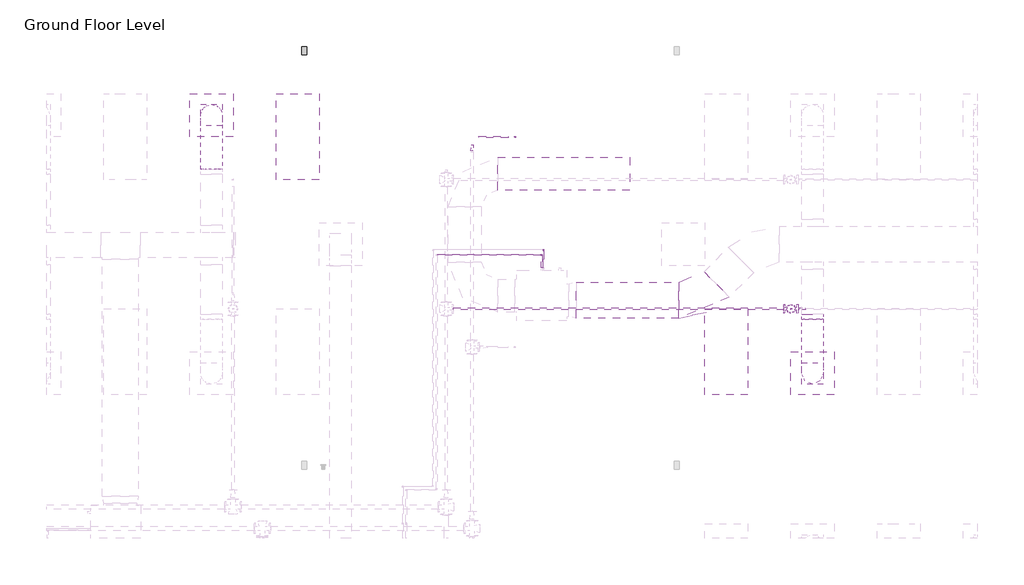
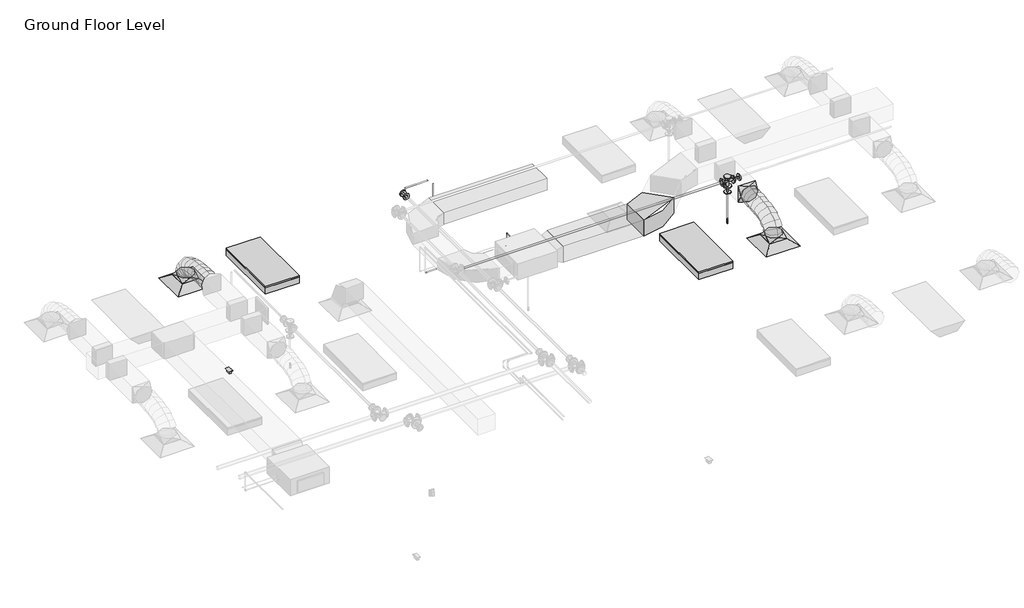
# One storey, part 72 of 74: 9 pipe segments, 8 pipe fittings, 4 duct fittings, 4 duct segments, 2 air terminals, 2 fire suppression terminals, 2 light fixtures, 1 proxy.
"""IFC4 building model written with IfcOpenShell, lengths in millimetres."""

from ifc_helpers import new_model, si_unit, point, frame, frame_2d, origin, place, context, project, spatial, polyline, circle_curve, ellipse_curve, trimmed, segment, composite_curve, outline, extrude, transform, mapped, element, save
from ifc_brep_helpers import plane_surface, cylinder_surface, advanced_brep
from components import m_return_diffuser_600_x_600_face_300_x_300_connection_ff221211, m_duplex_receptacle_standard_10251bba, m_rectangular_elbow_radius_1_5_w_acc56c25, m_rectangular_to_round_transition_angle_45_degree_641efff0, m_sprinkler_dry_pendent_hosted_15_mm_dry_pendent_9bda8e11, m_sprinkler_pendent_15_mm_pendent_06fcbd8e, m_troffer_light_parabolic_rectangular1_0600x1200mm_4_lamp_86473d4a, m_elbow_generic_standard_a088f956, m_elbow_generic_standard_2a704253, m_reducer_flanged_cs_class_150_standard_ccf252ad, m_tee_round_base_flanged_cs_class_150_standard_7e5987a1

model = new_model("IFC4")

# Units and contexts
model_context = context("Model", 3, world=origin())
ifc_project = project(units=[si_unit("LENGTHUNIT", "METRE", prefix="MILLI")], contexts=[model_context])

# Site, building, storey
site = spatial("IfcSite", under=ifc_project)
building = spatial("IfcBuilding", under=site)
storey = spatial("IfcBuildingStorey", under=building, Name="Ground Floor Level", Elevation=900.0)

# Air terminals
placement = place(None, origin())
m_return_diffuser_600_x_600_face_300_x_300_connection_shape = m_return_diffuser_600_x_600_face_300_x_300_connection_ff221211(model_context)
element("IfcAirTerminal", 1, ObjectType="M_Supply Diffuser : 600 x 600 Face 300 x 300 Connection", at=placement, inside=storey, context=model_context, shape_type="MappedRepresentation", body=[
    mapped(m_return_diffuser_600_x_600_face_300_x_300_connection_shape, transform((2362.7672395, 20535.2153534, 3650.0), x_axis=(1.0, 0.0, 0.0), y_axis=(0.0, 1.0, 0.0), z_axis=(0.0, 0.0, 1.0))),
])
element("IfcAirTerminal", 2, ObjectType="M_Supply Diffuser : 600 x 600 Face 300 x 300 Connection", at=placement, inside=storey, context=model_context, shape_type="MappedRepresentation", body=[
    mapped(m_return_diffuser_600_x_600_face_300_x_300_connection_shape, transform((10742.7672395, 16935.2153534, 3650.0), x_axis=(1.0, 0.0, 0.0), y_axis=(0.0, 1.0, 0.0), z_axis=(0.0, 0.0, 1.0))),
])

# Proxy
m_duplex_receptacle_standard_shape = m_duplex_receptacle_standard_10251bba(model_context)
element("IfcBuildingElementProxy", 3, Name="M_Duplex Receptacle : Standard", ObjectType="M_Duplex Receptacle : Standard", at=placement, inside=storey, context=model_context, shape_type="MappedRepresentation", body=[
    mapped(m_duplex_receptacle_standard_shape, transform((3652.7672395, 21435.2153534, 1000.0), x_axis=(-1.0, 0.0, 0.0), y_axis=(0.0, -1.0, 0.0), z_axis=(0.0, 0.0, 1.0))),
])

# Duct fittings
m_rectangular_elbow_radius_1_5_w_shape = m_rectangular_elbow_radius_1_5_w_acc56c25(model_context)
element("IfcDuctFitting", 4, ObjectType="M_Rectangular Elbow - Radius : 1.5 W", at=placement, inside=storey, context=model_context, shape_type="MappedRepresentation", body=[
    mapped(m_rectangular_elbow_radius_1_5_w_shape, transform((9187.6927358, 17956.1779527, 4100.0047224), x_axis=(0.9999999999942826, 0.0, -3.3815582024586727e-06), y_axis=(-9.063610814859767e-12, 0.9999999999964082, -2.680306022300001e-06), z_axis=(3.3815582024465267e-06, 2.6803060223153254e-06, 0.9999999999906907))),
])
m_rectangular_to_round_transition_angle_45_degree_shape = m_rectangular_to_round_transition_angle_45_degree_641efff0(model_context)
element("IfcDuctFitting", 5, ObjectType="M_Rectangular to Round Transition - Angle : 45 Degree", at=placement, inside=storey, context=model_context, shape_type="MappedRepresentation", body=[
    mapped(m_rectangular_to_round_transition_angle_45_degree_shape, transform((2362.7672395, 20535.2153534, 3751.6), x_axis=(0.0, 0.0, 1.0), y_axis=(-1.0, 0.0, 0.0), z_axis=(0.0, -1.0, 0.0))),
])
element("IfcDuctFitting", 6, ObjectType="M_Rectangular to Round Transition - Angle : 45 Degree", at=placement, inside=storey, context=model_context, shape_type="MappedRepresentation", body=[
    mapped(m_rectangular_to_round_transition_angle_45_degree_shape, transform((10742.7672395, 16935.2153534, 3751.6), x_axis=(0.0, 0.0, 1.0), y_axis=(-1.0, 0.0, 0.0), z_axis=(0.0, -1.0, 0.0))),
])
element("IfcDuctFitting", 7, ObjectType="M_Rectangular to Round Transition - Angle : 45 Degree", at=placement, inside=storey, context=model_context, shape_type="MappedRepresentation", body=[
    mapped(m_rectangular_to_round_transition_angle_45_degree_shape, transform((10742.7672395, 17762.5512847, 4100.0), x_axis=(0.0, -1.0, 0.0), y_axis=(1.0, 0.0, 0.0), z_axis=(0.0, 0.0, 1.0))),
])

# Duct segments
element("IfcDuctSegment", 8, ObjectType="Flex - Round", at=placement, inside=storey, context=model_context, shape_type="AdvancedBrep", body=[
    advanced_brep(
    [(2512.7672395, 20535.2153534, 3826.6), (2362.7672395, 20385.2153534, 3826.6), (2212.7672395, 20535.2153534, 3826.6), (2362.7672395, 20685.2153534, 3826.6), (2512.7672395, 20535.2153534, 3857.937778), (2362.7672395, 20385.2153534, 3832.2944744), (2212.7672395, 20535.2153534, 3857.937778), (2362.7672395, 20685.2153534, 3883.5810816), (2512.7672395, 20518.1993769, 3906.2506017), (2362.7672395, 20384.4614978, 3834.4348684), (2212.7672395, 20518.1993769, 3906.2506017), (2362.7672395, 20651.937256, 3978.0663351), (2512.7672395, 20471.0153769, 3968.7112406), (2362.7672395, 20366.8097489, 3857.8016772), (2212.7672395, 20471.0153769, 3968.7112406), (2362.7672395, 20575.2210049, 4079.6208039), (2512.7672395, 20399.4592477, 4016.0697935), (2362.7672395, 20330.5256195, 3881.8158865), (2212.7672395, 20399.4592477, 4016.0697935), (2362.7672395, 20468.3928758, 4150.3237004), (2512.7672395, 20309.3268835, 4050.4141374), (2362.7672395, 20265.7665876, 3906.4918893), (2212.7672395, 20309.3268835, 4050.4141374), (2362.7672395, 20352.8871794, 4194.3363855), (2512.7672395, 20206.4141786, 4073.8321493), (2362.7672395, 20179.8536975, 3926.0415559), (2212.7672395, 20206.4141786, 4073.8321493), (2362.7672395, 20232.9746597, 4221.6227426), (2512.7672395, 20096.5170273, 4088.411706), (2362.7672395, 20081.3665099, 3939.1074046), (2212.7672395, 20096.5170273, 4088.411706), (2362.7672395, 20111.6675446, 4237.7160075), (2512.7672395, 19985.4313238, 4096.2406846), (2362.7672395, 19977.9262951, 3946.3975526), (2212.7672395, 19985.4313238, 4096.2406846), (2362.7672395, 19992.9363525, 4246.0838166), (2512.7672395, 19878.9529624, 4099.406962), (2362.7672395, 19876.2616453, 3949.4206879), (2212.7672395, 19878.9529624, 4099.406962), (2362.7672395, 19881.6442795, 4249.3932362), (2512.7672395, 19782.8778373, 4099.9984152), (2362.7672395, 19783.8012427, 4249.9955729), (2212.7672395, 19782.8778373, 4099.9984152), (2362.7672395, 19781.9544319, 3950.0012575)],
    [
        (0, 1, circle_curve(frame((2362.7672395, 20535.2153534, 3826.6), z_axis=(0.0, 0.0, -1.0), x_axis=(1.0, 0.0, 0.0)), 150.0)),
        (1, 2, circle_curve(frame((2362.7672395, 20535.2153534, 3826.6), z_axis=(0.0, 0.0, -1.0), x_axis=(1.0, 0.0, 0.0)), 150.0)),
        (2, 3, circle_curve(frame((2362.7672395, 20535.2153534, 3826.6), z_axis=(0.0, 0.0, -1.0), x_axis=(1.0, 0.0, 0.0)), 150.0)),
        (3, 0, circle_curve(frame((2362.7672395, 20535.2153534, 3826.6), z_axis=(0.0, 0.0, -1.0), x_axis=(1.0, 0.0, 0.0)), 150.0)),
        (0, 4),
        (4, 5, ellipse_curve(frame((2362.7672395, 20535.2153534, 3857.937778), z_axis=(0.0, 0.16851066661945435, -0.985699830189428), x_axis=(0.0, -0.985699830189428, -0.16851066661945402)), 152.1761447, 150.0)),
        (5, 1),
        (5, 6, ellipse_curve(frame((2362.7672395, 20535.2153534, 3857.937778), z_axis=(0.0, 0.16851066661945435, -0.985699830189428), x_axis=(0.0, -0.985699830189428, -0.16851066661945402)), 152.1761447, 150.0)),
        (6, 2),
        (6, 7, ellipse_curve(frame((2362.7672395, 20535.2153534, 3857.937778), z_axis=(0.0, 0.16851066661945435, -0.985699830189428), x_axis=(0.0, -0.985699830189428, -0.16851066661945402)), 152.1761447, 150.0)),
        (7, 3),
        (7, 4, ellipse_curve(frame((2362.7672395, 20535.2153534, 3857.937778), z_axis=(0.0, 0.16851066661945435, -0.985699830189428), x_axis=(0.0, -0.985699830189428, -0.16851066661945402)), 152.1761447, 150.0)),
        (4, 8),
        (8, 9, ellipse_curve(frame((2362.7672395, 20518.1993769, 3906.2506017), z_axis=(0.0, 0.4730936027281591, -0.8810121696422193), x_axis=(0.0, -0.8810121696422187, -0.4730936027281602)), 151.8002631, 150.0)),
        (9, 5),
        (9, 10, ellipse_curve(frame((2362.7672395, 20518.1993769, 3906.2506017), z_axis=(0.0, 0.4730936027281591, -0.8810121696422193), x_axis=(0.0, -0.8810121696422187, -0.4730936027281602)), 151.8002631, 150.0)),
        (10, 6),
        (10, 11, ellipse_curve(frame((2362.7672395, 20518.1993769, 3906.2506017), z_axis=(0.0, 0.4730936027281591, -0.8810121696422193), x_axis=(0.0, -0.8810121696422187, -0.4730936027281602)), 151.8002631, 150.0)),
        (11, 7),
        (11, 8, ellipse_curve(frame((2362.7672395, 20518.1993769, 3906.2506017), z_axis=(0.0, 0.4730936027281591, -0.8810121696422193), x_axis=(0.0, -0.8810121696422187, -0.4730936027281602)), 151.8002631, 150.0)),
        (8, 12),
        (12, 13, ellipse_curve(frame((2362.7672395, 20471.0153769, 3968.7112406), z_axis=(0.0, 0.7287895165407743, -0.6847377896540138), x_axis=(0.0, -0.6847377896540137, -0.7287895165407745)), 152.1832584, 150.0)),
        (13, 9),
        (13, 14, ellipse_curve(frame((2362.7672395, 20471.0153769, 3968.7112406), z_axis=(0.0, 0.7287895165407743, -0.6847377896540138), x_axis=(0.0, -0.6847377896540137, -0.7287895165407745)), 152.1832584, 150.0)),
        (14, 10),
        (14, 15, ellipse_curve(frame((2362.7672395, 20471.0153769, 3968.7112406), z_axis=(0.0, 0.7287895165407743, -0.6847377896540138), x_axis=(0.0, -0.6847377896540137, -0.7287895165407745)), 152.1832584, 150.0)),
        (15, 11),
        (15, 12, ellipse_curve(frame((2362.7672395, 20471.0153769, 3968.7112406), z_axis=(0.0, 0.7287895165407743, -0.6847377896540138), x_axis=(0.0, -0.6847377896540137, -0.7287895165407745)), 152.1832584, 150.0)),
        (12, 16),
        (16, 17, ellipse_curve(frame((2362.7672395, 20399.4592477, 4016.0697935), z_axis=(0.0, 0.8895873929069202, -0.4567650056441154), x_axis=(0.0, -0.4567650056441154, -0.8895873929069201)), 150.9170521, 150.0)),
        (17, 13),
        (17, 18, ellipse_curve(frame((2362.7672395, 20399.4592477, 4016.0697935), z_axis=(0.0, 0.8895873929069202, -0.4567650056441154), x_axis=(0.0, -0.4567650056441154, -0.8895873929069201)), 150.9170521, 150.0)),
        (18, 14),
        (18, 19, ellipse_curve(frame((2362.7672395, 20399.4592477, 4016.0697935), z_axis=(0.0, 0.8895873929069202, -0.4567650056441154), x_axis=(0.0, -0.4567650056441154, -0.8895873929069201)), 150.9170521, 150.0)),
        (19, 15),
        (19, 16, ellipse_curve(frame((2362.7672395, 20399.4592477, 4016.0697935), z_axis=(0.0, 0.8895873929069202, -0.4567650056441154), x_axis=(0.0, -0.4567650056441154, -0.8895873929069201)), 150.9170521, 150.0)),
        (16, 20),
        (20, 21, ellipse_curve(frame((2362.7672395, 20309.3268835, 4050.4141374), z_axis=(0.0, 0.9571212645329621, -0.2896875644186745), x_axis=(0.0, -0.28968756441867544, -0.9571212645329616)), 150.3699202, 150.0)),
        (21, 17),
        (21, 22, ellipse_curve(frame((2362.7672395, 20309.3268835, 4050.4141374), z_axis=(0.0, 0.9571212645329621, -0.2896875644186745), x_axis=(0.0, -0.28968756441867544, -0.9571212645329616)), 150.3699202, 150.0)),
        (22, 18),
        (22, 23, ellipse_curve(frame((2362.7672395, 20309.3268835, 4050.4141374), z_axis=(0.0, 0.9571212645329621, -0.2896875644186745), x_axis=(0.0, -0.28968756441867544, -0.9571212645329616)), 150.3699202, 150.0)),
        (23, 19),
        (23, 20, ellipse_curve(frame((2362.7672395, 20309.3268835, 4050.4141374), z_axis=(0.0, 0.9571212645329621, -0.2896875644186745), x_axis=(0.0, -0.28968756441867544, -0.9571212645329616)), 150.3699202, 150.0)),
        (20, 24),
        (24, 25, ellipse_curve(frame((2362.7672395, 20206.4141786, 4073.8321493), z_axis=(0.0, 0.9842318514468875, -0.17688318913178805), x_axis=(0.0, -0.17688318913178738, -0.9842318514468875)), 150.1583119, 150.0)),
        (25, 21),
        (25, 26, ellipse_curve(frame((2362.7672395, 20206.4141786, 4073.8321493), z_axis=(0.0, 0.9842318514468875, -0.17688318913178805), x_axis=(0.0, -0.17688318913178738, -0.9842318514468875)), 150.1583119, 150.0)),
        (26, 22),
        (26, 27, ellipse_curve(frame((2362.7672395, 20206.4141786, 4073.8321493), z_axis=(0.0, 0.9842318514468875, -0.17688318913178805), x_axis=(0.0, -0.17688318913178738, -0.9842318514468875)), 150.1583119, 150.0)),
        (27, 23),
        (27, 24, ellipse_curve(frame((2362.7672395, 20206.4141786, 4073.8321493), z_axis=(0.0, 0.9842318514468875, -0.17688318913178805), x_axis=(0.0, -0.17688318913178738, -0.9842318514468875)), 150.1583119, 150.0)),
        (24, 28),
        (28, 29, ellipse_curve(frame((2362.7672395, 20096.5170273, 4088.411706), z_axis=(0.0, 0.9948909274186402, -0.10095564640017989), x_axis=(0.0, -0.10095564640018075, -0.99489092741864)), 150.0710252, 150.0)),
        (29, 25),
        (29, 30, ellipse_curve(frame((2362.7672395, 20096.5170273, 4088.411706), z_axis=(0.0, 0.9948909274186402, -0.10095564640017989), x_axis=(0.0, -0.10095564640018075, -0.99489092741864)), 150.0710252, 150.0)),
        (30, 26),
        (30, 31, ellipse_curve(frame((2362.7672395, 20096.5170273, 4088.411706), z_axis=(0.0, 0.9948909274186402, -0.10095564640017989), x_axis=(0.0, -0.10095564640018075, -0.99489092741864)), 150.0710252, 150.0)),
        (31, 27),
        (31, 28, ellipse_curve(frame((2362.7672395, 20096.5170273, 4088.411706), z_axis=(0.0, 0.9948909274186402, -0.10095564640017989), x_axis=(0.0, -0.10095564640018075, -0.99489092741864)), 150.0710252, 150.0)),
        (28, 32),
        (32, 33, ellipse_curve(frame((2362.7672395, 19985.4313238, 4096.2406846), z_axis=(0.0, 0.9987480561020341, -0.05002319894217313), x_axis=(0.0, -0.050023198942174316, -0.9987480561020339)), 150.0309623, 150.0)),
        (33, 29),
        (33, 34, ellipse_curve(frame((2362.7672395, 19985.4313238, 4096.2406846), z_axis=(0.0, 0.9987480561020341, -0.05002319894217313), x_axis=(0.0, -0.050023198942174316, -0.9987480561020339)), 150.0309623, 150.0)),
        (34, 30),
        (34, 35, ellipse_curve(frame((2362.7672395, 19985.4313238, 4096.2406846), z_axis=(0.0, 0.9987480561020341, -0.05002319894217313), x_axis=(0.0, -0.050023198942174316, -0.9987480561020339)), 150.0309623, 150.0)),
        (35, 31),
        (35, 32, ellipse_curve(frame((2362.7672395, 19985.4313238, 4096.2406846), z_axis=(0.0, 0.9987480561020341, -0.05002319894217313), x_axis=(0.0, -0.050023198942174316, -0.9987480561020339)), 150.0309623, 150.0)),
        (32, 36),
        (36, 37, ellipse_curve(frame((2362.7672395, 19878.9529624, 4099.406962), z_axis=(0.0, 0.99983904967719, -0.017940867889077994), x_axis=(0.0, -0.017940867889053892, -0.9998390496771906)), 150.0104184, 150.0)),
        (37, 33),
        (37, 38, ellipse_curve(frame((2362.7672395, 19878.9529624, 4099.406962), z_axis=(0.0, 0.99983904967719, -0.017940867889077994), x_axis=(0.0, -0.017940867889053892, -0.9998390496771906)), 150.0104184, 150.0)),
        (38, 34),
        (38, 39, ellipse_curve(frame((2362.7672395, 19878.9529624, 4099.406962), z_axis=(0.0, 0.99983904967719, -0.017940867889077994), x_axis=(0.0, -0.017940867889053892, -0.9998390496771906)), 150.0104184, 150.0)),
        (39, 35),
        (39, 36, ellipse_curve(frame((2362.7672395, 19878.9529624, 4099.406962), z_axis=(0.0, 0.99983904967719, -0.017940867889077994), x_axis=(0.0, -0.017940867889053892, -0.9998390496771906)), 150.0104184, 150.0)),
        (40, 41, circle_curve(frame((2362.7672395, 19782.8778373, 4099.9984152), z_axis=(0.0, -0.9999810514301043, 0.006156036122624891), x_axis=(1.0, 0.0, 0.0)), 150.0)),
        (41, 42, circle_curve(frame((2362.7672395, 19782.8778373, 4099.9984152), z_axis=(0.0, -0.9999810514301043, 0.006156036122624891), x_axis=(1.0, 0.0, 0.0)), 150.0)),
        (42, 43, circle_curve(frame((2362.7672395, 19782.8778373, 4099.9984152), z_axis=(0.0, -0.9999810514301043, 0.006156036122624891), x_axis=(1.0, 0.0, 0.0)), 150.0)),
        (43, 40, circle_curve(frame((2362.7672395, 19782.8778373, 4099.9984152), z_axis=(0.0, -0.9999810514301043, 0.006156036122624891), x_axis=(1.0, 0.0, 0.0)), 150.0)),
        (36, 40),
        (43, 37),
        (42, 38),
        (41, 39),
    ],
    [
        plane_surface(frame((2362.7672395, 20385.2153534, 3826.6), z_axis=(0.0, 0.0, -1.0), x_axis=(1.0, 0.0, 0.0))),
        cylinder_surface(frame((2362.7672395, 20535.2153534, 3826.6), z_axis=(0.0, 0.0, -1.0), x_axis=(1.0, 0.0, 0.0)), 150.0),
        cylinder_surface(frame((2362.7672395, 20535.2153534, 3857.937778), z_axis=(0.0, 0.3322018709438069, -0.9432083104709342), x_axis=(1.0, 0.0, 0.0)), 150.0),
        cylinder_surface(frame((2362.7672395, 20518.1993769, 3906.2506017), z_axis=(0.0, 0.6027641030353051, -0.7979194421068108), x_axis=(1.0, 0.0, 0.0)), 150.0),
        cylinder_surface(frame((2362.7672395, 20471.0153769, 3968.7112406), z_axis=(0.0, 0.8339041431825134, -0.5519093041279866), x_axis=(1.0, 0.0, 0.0)), 150.0),
        cylinder_surface(frame((2362.7672395, 20399.4592477, 4016.0697935), z_axis=(0.0, 0.9344594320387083, -0.3560696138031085), x_axis=(1.0, 0.0, 0.0)), 150.0),
        cylinder_surface(frame((2362.7672395, 20309.3268835, 4050.4141374), z_axis=(0.0, 0.9750739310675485, -0.22188021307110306), x_axis=(1.0, 0.0, 0.0)), 150.0),
        cylinder_surface(frame((2362.7672395, 20206.4141786, 4073.8321493), z_axis=(0.0, 0.9913144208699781, -0.13151318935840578), x_axis=(1.0, 0.0, 0.0)), 150.0),
        cylinder_surface(frame((2362.7672395, 20096.5170273, 4088.411706), z_axis=(0.0, 0.9975257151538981, -0.07030254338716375), x_axis=(1.0, 0.0, 0.0)), 150.0),
        cylinder_surface(frame((2362.7672395, 19985.4313238, 4096.2406846), z_axis=(0.0, 0.9995581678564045, -0.029723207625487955), x_axis=(1.0, 0.0, 0.0)), 150.0),
        plane_surface(frame((2362.7672395, 19781.9544319, 3950.0012575), z_axis=(0.0, -0.9999810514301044, 0.006156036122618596), x_axis=(1.0, 0.0, 0.0))),
        cylinder_surface(frame((2362.7672395, 19878.9529624, 4099.406962), z_axis=(0.0, 0.9999810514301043, -0.006156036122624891), x_axis=(1.0, 0.0, 0.0)), 150.0),
    ],
    [
        (0, [[1, 2, 3, 4]]),
        (1, [[-1, 5, 6, 7]]),
        (1, [[-2, -7, 8, 9]]),
        (1, [[-3, -9, 10, 11]]),
        (1, [[-4, -11, 12, -5]]),
        (2, [[-6, 13, 14, 15]]),
        (2, [[-8, -15, 16, 17]]),
        (2, [[-10, -17, 18, 19]]),
        (2, [[-12, -19, 20, -13]]),
        (3, [[-14, 21, 22, 23]]),
        (3, [[-16, -23, 24, 25]]),
        (3, [[-18, -25, 26, 27]]),
        (3, [[-20, -27, 28, -21]]),
        (4, [[-22, 29, 30, 31]]),
        (4, [[-24, -31, 32, 33]]),
        (4, [[-26, -33, 34, 35]]),
        (4, [[-28, -35, 36, -29]]),
        (5, [[-30, 37, 38, 39]]),
        (5, [[-32, -39, 40, 41]]),
        (5, [[-34, -41, 42, 43]]),
        (5, [[-36, -43, 44, -37]]),
        (6, [[-38, 45, 46, 47]]),
        (6, [[-40, -47, 48, 49]]),
        (6, [[-42, -49, 50, 51]]),
        (6, [[-44, -51, 52, -45]]),
        (7, [[-46, 53, 54, 55]]),
        (7, [[-48, -55, 56, 57]]),
        (7, [[-50, -57, 58, 59]]),
        (7, [[-52, -59, 60, -53]]),
        (8, [[-54, 61, 62, 63]]),
        (8, [[-56, -63, 64, 65]]),
        (8, [[-58, -65, 66, 67]]),
        (8, [[-60, -67, 68, -61]]),
        (9, [[-62, 69, 70, 71]]),
        (9, [[-64, -71, 72, 73]]),
        (9, [[-66, -73, 74, 75]]),
        (9, [[-68, -75, 76, -69]]),
        (10, [[77, 78, 79, 80]]),
        (11, [[-70, 81, -80, 82]]),
        (11, [[-72, -82, -79, 83]]),
        (11, [[-74, -83, -78, 84]]),
        (11, [[-76, -84, -77, -81]]),
    ],
),
])
element("IfcDuctSegment", 9, ObjectType="Flex - Round", at=placement, inside=storey, context=model_context, shape_type="AdvancedBrep", body=[
    advanced_brep(
    [(10892.7672395, 16935.2153534, 3826.6), (10742.7672395, 16785.2153534, 3826.6), (10592.7672395, 16935.2153534, 3826.6), (10742.7672395, 17085.2153534, 3826.6), (10892.7672395, 16935.2153534, 3857.9377114), (10742.7672395, 16785.2153534, 3883.5809337), (10592.7672395, 16935.2153534, 3857.9377114), (10742.7672395, 17085.2153534, 3832.2944892), (10892.7672395, 16952.2312859, 3906.2505728), (10742.7672395, 16818.493307, 3978.0660967), (10592.7672395, 16952.2312859, 3906.2505728), (10742.7672395, 17085.9692649, 3834.435049), (10892.7672395, 16999.4151663, 3968.7113131), (10742.7672395, 16895.209267, 4079.6206026), (10592.7672395, 16999.4151663, 3968.7113131), (10742.7672395, 17103.6210655, 3857.8020236), (10892.7672395, 17070.9711184, 4016.0700639), (10742.7672395, 17002.0370628, 4150.3237489), (10592.7672395, 17070.9711184, 4016.0700639), (10742.7672395, 17139.9051741, 3881.8163788), (10892.7672395, 17161.1032664, 4050.4146682), (10742.7672395, 17117.5425033, 4194.3367758), (10592.7672395, 17161.1032664, 4050.4146682), (10742.7672395, 17204.6640296, 3906.4925606), (10892.7672395, 17264.0157343, 4073.8329691), (10742.7672395, 17237.4548103, 4221.6234841), (10592.7672395, 17264.0157343, 4073.8329691), (10742.7672395, 17290.5766583, 3926.0424542), (10892.7672395, 17373.912646, 4088.4128097), (10742.7672395, 17358.7617437, 4237.7170733), (10592.7672395, 17373.912646, 4088.4128097), (10742.7672395, 17389.0635483, 3939.1085462), (10892.7672395, 17484.9981256, 4096.242033), (10742.7672395, 17477.4927975, 4246.085151), (10592.7672395, 17484.9981256, 4096.242033), (10742.7672395, 17492.5034538, 3946.398915), (10892.7672395, 17591.4762972, 4099.4084821), (10742.7672395, 17588.7848041, 4249.394754), (10592.7672395, 17591.4762972, 4099.4084821), (10742.7672395, 17594.1677903, 3949.4222102), (10892.7672395, 17687.5512847, 4100.0), (10742.7672395, 17688.4747925, 3950.0028429), (10592.7672395, 17687.5512847, 4100.0), (10742.7672395, 17686.6277768, 4249.9971571)],
    [
        (0, 1, circle_curve(frame((10742.7672395, 16935.2153534, 3826.6), z_axis=(0.0, 0.0, -1.0), x_axis=(1.0, 0.0, 0.0)), 150.0)),
        (1, 2, circle_curve(frame((10742.7672395, 16935.2153534, 3826.6), z_axis=(0.0, 0.0, -1.0), x_axis=(1.0, 0.0, 0.0)), 150.0)),
        (2, 3, circle_curve(frame((10742.7672395, 16935.2153534, 3826.6), z_axis=(0.0, 0.0, -1.0), x_axis=(1.0, 0.0, 0.0)), 150.0)),
        (3, 0, circle_curve(frame((10742.7672395, 16935.2153534, 3826.6), z_axis=(0.0, 0.0, -1.0), x_axis=(1.0, 0.0, 0.0)), 150.0)),
        (0, 4),
        (4, 5, ellipse_curve(frame((10742.7672395, 16935.2153534, 3857.9377114), z_axis=(0.0, -0.16851014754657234, -0.9856999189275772), x_axis=(0.0, 0.9856999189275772, -0.1685101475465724)), 152.176131, 150.0)),
        (5, 1),
        (5, 6, ellipse_curve(frame((10742.7672395, 16935.2153534, 3857.9377114), z_axis=(0.0, -0.16851014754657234, -0.9856999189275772), x_axis=(0.0, 0.9856999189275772, -0.1685101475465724)), 152.176131, 150.0)),
        (6, 2),
        (6, 7, ellipse_curve(frame((10742.7672395, 16935.2153534, 3857.9377114), z_axis=(0.0, -0.16851014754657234, -0.9856999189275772), x_axis=(0.0, 0.9856999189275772, -0.1685101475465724)), 152.176131, 150.0)),
        (7, 3),
        (7, 4, ellipse_curve(frame((10742.7672395, 16935.2153534, 3857.9377114), z_axis=(0.0, -0.16851014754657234, -0.9856999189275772), x_axis=(0.0, 0.9856999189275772, -0.1685101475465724)), 152.176131, 150.0)),
        (4, 8),
        (8, 9, ellipse_curve(frame((10742.7672395, 16952.2312859, 3906.2505728), z_axis=(0.0, -0.47309225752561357, -0.8810128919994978), x_axis=(0.0, 0.8810128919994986, -0.47309225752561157)), 151.8002519, 150.0)),
        (9, 5),
        (9, 10, ellipse_curve(frame((10742.7672395, 16952.2312859, 3906.2505728), z_axis=(0.0, -0.47309225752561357, -0.8810128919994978), x_axis=(0.0, 0.8810128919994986, -0.47309225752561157)), 151.8002519, 150.0)),
        (10, 6),
        (10, 11, ellipse_curve(frame((10742.7672395, 16952.2312859, 3906.2505728), z_axis=(0.0, -0.47309225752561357, -0.8810128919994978), x_axis=(0.0, 0.8810128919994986, -0.47309225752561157)), 151.8002519, 150.0)),
        (11, 7),
        (11, 8, ellipse_curve(frame((10742.7672395, 16952.2312859, 3906.2505728), z_axis=(0.0, -0.47309225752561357, -0.8810128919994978), x_axis=(0.0, 0.8810128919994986, -0.47309225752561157)), 151.8002519, 150.0)),
        (8, 12),
        (12, 13, ellipse_curve(frame((10742.7672395, 16999.4151663, 3968.7113131), z_axis=(0.0, -0.7287877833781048, -0.6847396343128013), x_axis=(0.0, 0.6847396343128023, -0.7287877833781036)), 152.1832446, 150.0)),
        (13, 9),
        (13, 14, ellipse_curve(frame((10742.7672395, 16999.4151663, 3968.7113131), z_axis=(0.0, -0.7287877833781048, -0.6847396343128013), x_axis=(0.0, 0.6847396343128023, -0.7287877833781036)), 152.1832446, 150.0)),
        (14, 10),
        (14, 15, ellipse_curve(frame((10742.7672395, 16999.4151663, 3968.7113131), z_axis=(0.0, -0.7287877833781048, -0.6847396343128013), x_axis=(0.0, 0.6847396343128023, -0.7287877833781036)), 152.1832446, 150.0)),
        (15, 11),
        (15, 12, ellipse_curve(frame((10742.7672395, 16999.4151663, 3968.7113131), z_axis=(0.0, -0.7287877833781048, -0.6847396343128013), x_axis=(0.0, 0.6847396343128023, -0.7287877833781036)), 152.1832446, 150.0)),
        (12, 16),
        (16, 17, ellipse_curve(frame((10742.7672395, 17070.9711184, 4016.0700639), z_axis=(0.0, -0.8895859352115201, -0.45676784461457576), x_axis=(0.0, 0.45676784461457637, -0.8895859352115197)), 150.91705, 150.0)),
        (17, 13),
        (17, 18, ellipse_curve(frame((10742.7672395, 17070.9711184, 4016.0700639), z_axis=(0.0, -0.8895859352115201, -0.45676784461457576), x_axis=(0.0, 0.45676784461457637, -0.8895859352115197)), 150.91705, 150.0)),
        (18, 14),
        (18, 19, ellipse_curve(frame((10742.7672395, 17070.9711184, 4016.0700639), z_axis=(0.0, -0.8895859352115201, -0.45676784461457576), x_axis=(0.0, 0.45676784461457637, -0.8895859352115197)), 150.91705, 150.0)),
        (19, 15),
        (19, 16, ellipse_curve(frame((10742.7672395, 17070.9711184, 4016.0700639), z_axis=(0.0, -0.8895859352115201, -0.45676784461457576), x_axis=(0.0, 0.45676784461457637, -0.8895859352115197)), 150.91705, 150.0)),
        (16, 20),
        (20, 21, ellipse_curve(frame((10742.7672395, 17161.1032664, 4050.4146682), z_axis=(0.0, -0.9571203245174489, -0.2896906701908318), x_axis=(0.0, 0.28969067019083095, -0.9571203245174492)), 150.369921, 150.0)),
        (21, 17),
        (21, 22, ellipse_curve(frame((10742.7672395, 17161.1032664, 4050.4146682), z_axis=(0.0, -0.9571203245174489, -0.2896906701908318), x_axis=(0.0, 0.28969067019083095, -0.9571203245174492)), 150.369921, 150.0)),
        (22, 18),
        (22, 23, ellipse_curve(frame((10742.7672395, 17161.1032664, 4050.4146682), z_axis=(0.0, -0.9571203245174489, -0.2896906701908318), x_axis=(0.0, 0.28969067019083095, -0.9571203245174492)), 150.369921, 150.0)),
        (23, 19),
        (23, 20, ellipse_curve(frame((10742.7672395, 17161.1032664, 4050.4146682), z_axis=(0.0, -0.9571203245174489, -0.2896906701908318), x_axis=(0.0, 0.28969067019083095, -0.9571203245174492)), 150.369921, 150.0)),
        (20, 24),
        (24, 25, ellipse_curve(frame((10742.7672395, 17264.0157343, 4073.8329691), z_axis=(0.0, -0.9842313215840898, -0.17688613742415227), x_axis=(0.0, 0.17688613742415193, -0.9842313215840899)), 150.1583131, 150.0)),
        (25, 21),
        (25, 26, ellipse_curve(frame((10742.7672395, 17264.0157343, 4073.8329691), z_axis=(0.0, -0.9842313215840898, -0.17688613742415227), x_axis=(0.0, 0.17688613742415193, -0.9842313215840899)), 150.1583131, 150.0)),
        (26, 22),
        (26, 27, ellipse_curve(frame((10742.7672395, 17264.0157343, 4073.8329691), z_axis=(0.0, -0.9842313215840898, -0.17688613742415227), x_axis=(0.0, 0.17688613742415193, -0.9842313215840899)), 150.1583131, 150.0)),
        (27, 23),
        (27, 24, ellipse_curve(frame((10742.7672395, 17264.0157343, 4073.8329691), z_axis=(0.0, -0.9842313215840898, -0.17688613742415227), x_axis=(0.0, 0.17688613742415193, -0.9842313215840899)), 150.1583131, 150.0)),
        (24, 28),
        (28, 29, ellipse_curve(frame((10742.7672395, 17373.912646, 4088.4128097), z_axis=(0.0, -0.9948906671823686, -0.1009582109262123), x_axis=(0.0, 0.10095821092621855, -0.994890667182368)), 150.0710264, 150.0)),
        (29, 25),
        (29, 30, ellipse_curve(frame((10742.7672395, 17373.912646, 4088.4128097), z_axis=(0.0, -0.9948906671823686, -0.1009582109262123), x_axis=(0.0, 0.10095821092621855, -0.994890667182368)), 150.0710264, 150.0)),
        (30, 26),
        (30, 31, ellipse_curve(frame((10742.7672395, 17373.912646, 4088.4128097), z_axis=(0.0, -0.9948906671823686, -0.1009582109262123), x_axis=(0.0, 0.10095821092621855, -0.994890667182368)), 150.0710264, 150.0)),
        (31, 27),
        (31, 28, ellipse_curve(frame((10742.7672395, 17373.912646, 4088.4128097), z_axis=(0.0, -0.9948906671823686, -0.1009582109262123), x_axis=(0.0, 0.10095821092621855, -0.994890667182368)), 150.0710264, 150.0)),
        (28, 32),
        (32, 33, ellipse_curve(frame((10742.7672395, 17484.9981256, 4096.242033), z_axis=(0.0, -0.9987479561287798, -0.05002519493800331), x_axis=(0.0, 0.05002519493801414, -0.9987479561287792)), 150.0309634, 150.0)),
        (33, 29),
        (33, 34, ellipse_curve(frame((10742.7672395, 17484.9981256, 4096.242033), z_axis=(0.0, -0.9987479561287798, -0.05002519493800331), x_axis=(0.0, 0.05002519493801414, -0.9987479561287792)), 150.0309634, 150.0)),
        (34, 30),
        (34, 35, ellipse_curve(frame((10742.7672395, 17484.9981256, 4096.242033), z_axis=(0.0, -0.9987479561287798, -0.05002519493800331), x_axis=(0.0, 0.05002519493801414, -0.9987479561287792)), 150.0309634, 150.0)),
        (35, 31),
        (35, 32, ellipse_curve(frame((10742.7672395, 17484.9981256, 4096.242033), z_axis=(0.0, -0.9987479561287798, -0.05002519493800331), x_axis=(0.0, 0.05002519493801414, -0.9987479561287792)), 150.0309634, 150.0)),
        (32, 36),
        (36, 37, ellipse_curve(frame((10742.7672395, 17591.4762972, 4099.4084821), z_axis=(0.0, -0.9998390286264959, -0.017942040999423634), x_axis=(0.0, 0.017942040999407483, -0.9998390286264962)), 150.0104193, 150.0)),
        (37, 33),
        (37, 38, ellipse_curve(frame((10742.7672395, 17591.4762972, 4099.4084821), z_axis=(0.0, -0.9998390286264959, -0.017942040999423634), x_axis=(0.0, 0.017942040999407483, -0.9998390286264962)), 150.0104193, 150.0)),
        (38, 34),
        (38, 39, ellipse_curve(frame((10742.7672395, 17591.4762972, 4099.4084821), z_axis=(0.0, -0.9998390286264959, -0.017942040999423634), x_axis=(0.0, 0.017942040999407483, -0.9998390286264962)), 150.0104193, 150.0)),
        (39, 35),
        (39, 36, ellipse_curve(frame((10742.7672395, 17591.4762972, 4099.4084821), z_axis=(0.0, -0.9998390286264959, -0.017942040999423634), x_axis=(0.0, 0.017942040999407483, -0.9998390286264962)), 150.0104193, 150.0)),
        (40, 41, circle_curve(frame((10742.7672395, 17687.5512847, 4100.0), z_axis=(0.0, 0.9999810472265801, 0.006156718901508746), x_axis=(1.0, 0.0, 0.0)), 150.0)),
        (41, 42, circle_curve(frame((10742.7672395, 17687.5512847, 4100.0), z_axis=(0.0, 0.9999810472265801, 0.006156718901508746), x_axis=(1.0, 0.0, 0.0)), 150.0)),
        (42, 43, circle_curve(frame((10742.7672395, 17687.5512847, 4100.0), z_axis=(0.0, 0.9999810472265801, 0.006156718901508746), x_axis=(1.0, 0.0, 0.0)), 150.0)),
        (43, 40, circle_curve(frame((10742.7672395, 17687.5512847, 4100.0), z_axis=(0.0, 0.9999810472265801, 0.006156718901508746), x_axis=(1.0, 0.0, 0.0)), 150.0)),
        (36, 40),
        (43, 37),
        (42, 38),
        (41, 39),
    ],
    [
        plane_surface(frame((10742.7672395, 16785.2153534, 3826.6), z_axis=(0.0, 0.0, -1.0), x_axis=(1.0, 0.0, 0.0))),
        cylinder_surface(frame((10742.7672395, 16935.2153534, 3826.6), z_axis=(0.0, 0.0, -1.0), x_axis=(1.0, 0.0, 0.0)), 150.0),
        cylinder_surface(frame((10742.7672395, 16935.2153534, 3857.9377114), z_axis=(0.0, -0.3322008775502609, -0.9432086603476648), x_axis=(1.0, 0.0, 0.0)), 150.0),
        cylinder_surface(frame((10742.7672395, 16952.2312859, 3906.2505728), z_axis=(0.0, -0.6027625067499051, -0.7979206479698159), x_axis=(1.0, 0.0, 0.0)), 150.0),
        cylinder_surface(frame((10742.7672395, 16999.4151663, 3968.7113131), z_axis=(0.0, -0.833902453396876, -0.5519118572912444), x_axis=(1.0, 0.0, 0.0)), 150.0),
        cylinder_surface(frame((10742.7672395, 17070.9711184, 4016.0700639), z_axis=(0.0, -0.9344582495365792, -0.35607271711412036), x_axis=(1.0, 0.0, 0.0)), 150.0),
        cylinder_surface(frame((10742.7672395, 17161.1032664, 4050.4146682), z_axis=(0.0, -0.9750732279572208, -0.22188330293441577), x_axis=(1.0, 0.0, 0.0)), 150.0),
        cylinder_surface(frame((10742.7672395, 17264.0157343, 4073.8329691), z_axis=(0.0, -0.9913140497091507, -0.13151598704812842), x_axis=(1.0, 0.0, 0.0)), 150.0),
        cylinder_surface(frame((10742.7672395, 17373.912646, 4088.4128097), z_axis=(0.0, -0.9975255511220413, -0.07030487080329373), x_axis=(1.0, 0.0, 0.0)), 150.0),
        cylinder_surface(frame((10742.7672395, 17484.9981256, 4096.242033), z_axis=(0.0, -0.9995581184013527, -0.02972487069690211), x_axis=(1.0, 0.0, 0.0)), 150.0),
        plane_surface(frame((10742.7672395, 17686.6277768, 4249.9971571), z_axis=(0.0, 0.9999810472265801, 0.0061567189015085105), x_axis=(1.0, 0.0, 0.0))),
        cylinder_surface(frame((10742.7672395, 17591.4762972, 4099.4084821), z_axis=(0.0, -0.9999810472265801, -0.006156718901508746), x_axis=(1.0, 0.0, 0.0)), 150.0),
    ],
    [
        (0, [[1, 2, 3, 4]]),
        (1, [[-1, 5, 6, 7]]),
        (1, [[-2, -7, 8, 9]]),
        (1, [[-3, -9, 10, 11]]),
        (1, [[-4, -11, 12, -5]]),
        (2, [[-6, 13, 14, 15]]),
        (2, [[-8, -15, 16, 17]]),
        (2, [[-10, -17, 18, 19]]),
        (2, [[-12, -19, 20, -13]]),
        (3, [[-14, 21, 22, 23]]),
        (3, [[-16, -23, 24, 25]]),
        (3, [[-18, -25, 26, 27]]),
        (3, [[-20, -27, 28, -21]]),
        (4, [[-22, 29, 30, 31]]),
        (4, [[-24, -31, 32, 33]]),
        (4, [[-26, -33, 34, 35]]),
        (4, [[-28, -35, 36, -29]]),
        (5, [[-30, 37, 38, 39]]),
        (5, [[-32, -39, 40, 41]]),
        (5, [[-34, -41, 42, 43]]),
        (5, [[-36, -43, 44, -37]]),
        (6, [[-38, 45, 46, 47]]),
        (6, [[-40, -47, 48, 49]]),
        (6, [[-42, -49, 50, 51]]),
        (6, [[-44, -51, 52, -45]]),
        (7, [[-46, 53, 54, 55]]),
        (7, [[-48, -55, 56, 57]]),
        (7, [[-50, -57, 58, 59]]),
        (7, [[-52, -59, 60, -53]]),
        (8, [[-54, 61, 62, 63]]),
        (8, [[-56, -63, 64, 65]]),
        (8, [[-58, -65, 66, 67]]),
        (8, [[-60, -67, 68, -61]]),
        (9, [[-62, 69, 70, 71]]),
        (9, [[-64, -71, 72, 73]]),
        (9, [[-66, -73, 74, 75]]),
        (9, [[-68, -75, 76, -69]]),
        (10, [[77, 78, 79, 80]]),
        (11, [[-70, 81, -80, 82]]),
        (11, [[-72, -82, -79, 83]]),
        (11, [[-74, -83, -78, 84]]),
        (11, [[-76, -84, -77, -81]]),
    ],
),
])
element("IfcDuctSegment", 10, ObjectType="Radius Elbows / Taps", at=placement, inside=storey, context=model_context, shape_type="SweptSolid", body=[
    extrude(outline(polyline([(7447.693178, 17706.1779527), (7447.693178, 18206.1779527), (8877.032564, 18206.1779527), (8877.032564, 17706.1779527), (7447.693178, 17706.1779527)])), frame((0.0, 0.0, 3950.0057729), z_axis=(0.0, 0.0, 1.0), x_axis=(1.0, 0.0, 0.0)), (0.0, 0.0, 1.0), 300.0),
])
element("IfcDuctSegment", 11, ObjectType="Radius Elbows / Taps", at=placement, inside=storey, context=model_context, shape_type="SweptSolid", body=[
    extrude(outline(polyline([(6355.2889492, 19488.7408949), (6355.2889492, 19950.6158949), (8193.4139492, 19950.6158949), (8193.4139492, 19488.7408949), (6355.2889492, 19488.7408949)])), frame((0.0, 0.0, 3968.1432729), z_axis=(0.0, 0.0, 1.0), x_axis=(1.0, 0.0, 0.0)), (0.0, 0.0, 1.0), 214.3),
])

# Fire suppression terminals
m_sprinkler_dry_pendent_hosted_15_mm_dry_pendent_shape = m_sprinkler_dry_pendent_hosted_15_mm_dry_pendent_9bda8e11(model_context)
element("IfcFireSuppressionTerminal", 12, ObjectType="M_Sprinkler - Dry - Pendent - Hosted : 15 mm Dry Pendent", at=placement, inside=storey, context=model_context, shape_type="MappedRepresentation", body=[
    mapped(m_sprinkler_dry_pendent_hosted_15_mm_dry_pendent_shape, transform((10442.7672395, 17835.2153534, 3650.0), x_axis=(1.0, 0.0, 0.0), y_axis=(0.0, -1.0, 0.0), z_axis=(0.0, 0.0, -1.0))),
])
m_sprinkler_pendent_15_mm_pendent_shape = m_sprinkler_pendent_15_mm_pendent_06fcbd8e(model_context)
element("IfcFireSuppressionTerminal", 13, ObjectType="M_Sprinkler - Pendent : 15 mm Pendent", at=placement, inside=storey, context=model_context, shape_type="MappedRepresentation", body=[
    mapped(m_sprinkler_pendent_15_mm_pendent_shape, transform((6592.5481019, 20231.639515, 3650.0), x_axis=(1.0, 0.0, 0.0), y_axis=(0.0, 1.0, 0.0), z_axis=(0.0, 0.0, 1.0))),
])

# Light fixtures
m_troffer_light_parabolic_rectangular1_0600x1200mm_4_lamp_shape = m_troffer_light_parabolic_rectangular1_0600x1200mm_4_lamp_86473d4a(model_context)
element("IfcLightFixture", 14, ObjectType="M_Troffer Light - Parabolic Rectangular1 : 0600x1200mm(4 Lamp) - 277V 2", at=placement, inside=storey, context=model_context, shape_type="MappedRepresentation", body=[
    mapped(m_troffer_light_parabolic_rectangular1_0600x1200mm_4_lamp_shape, transform((3503.3013074, 20253.918855, 3650.0), x_axis=(0.0, 1.0, 0.0), y_axis=(-1.0, 0.0, 0.0), z_axis=(0.0, 0.0, 1.0))),
])
element("IfcLightFixture", 15, ObjectType="M_Troffer Light - Parabolic Rectangular1 : 0600x1200mm(4 Lamp) - 277V 2", at=placement, inside=storey, context=model_context, shape_type="MappedRepresentation", body=[
    mapped(m_troffer_light_parabolic_rectangular1_0600x1200mm_4_lamp_shape, transform((9483.3013074, 17253.918855, 3650.0), x_axis=(0.0, 1.0, 0.0), y_axis=(-1.0, 0.0, 0.0), z_axis=(0.0, 0.0, 1.0))),
])

# Pipe fittings
m_elbow_generic_standard_shape = m_elbow_generic_standard_a088f956(model_context)
element("IfcPipeFitting", 16, ObjectType="M_Elbow - Generic : Standard", at=placement, inside=storey, context=model_context, shape_type="MappedRepresentation", body=[
    mapped(m_elbow_generic_standard_shape, transform((6968.8139492, 18590.9278534, 4034.0932729), x_axis=(0.0, 1.0, 0.0), y_axis=(0.0, 0.0, -1.0), z_axis=(-1.0, 0.0, 0.0))),
])
element("IfcPipeFitting", 17, ObjectType="M_Elbow - Generic : Standard", at=placement, inside=storey, context=model_context, shape_type="MappedRepresentation", body=[
    mapped(m_elbow_generic_standard_shape, transform((6968.8139492, 18590.9278534, 3900.0), x_axis=(0.0, 0.0, -1.0), y_axis=(-1.0, 0.0, 0.0), z_axis=(0.0, 1.0, 0.0))),
])
m_elbow_generic_standard_2_shape = m_elbow_generic_standard_2a704253(model_context)
element("IfcPipeFitting", 18, ObjectType="M_Elbow - Generic : Standard", at=placement, inside=storey, context=model_context, shape_type="MappedRepresentation", body=[
    mapped(m_elbow_generic_standard_2_shape, transform((6993.8139492, 18659.0778534, 4084.8932729), x_axis=(0.0, 1.0, 0.0), y_axis=(0.0, 0.0, -1.0), z_axis=(-1.0, 0.0, 0.0))),
])
element("IfcPipeFitting", 19, ObjectType="M_Elbow - Generic : Standard", at=placement, inside=storey, context=model_context, shape_type="MappedRepresentation", body=[
    mapped(m_elbow_generic_standard_2_shape, transform((6993.8139492, 18659.0778536, 3900.0), x_axis=(0.0, 0.0, -1.0), y_axis=(-1.0, 0.0, 0.0), z_axis=(0.0, 1.0, 0.0))),
])
m_reducer_flanged_cs_class_150_standard_shape = m_reducer_flanged_cs_class_150_standard_ccf252ad(model_context)
element("IfcPipeFitting", 20, ObjectType="M_Reducer - Flanged - CS - Class 150 : Standard", at=placement, inside=storey, context=model_context, shape_type="MappedRepresentation", body=[
    mapped(m_reducer_flanged_cs_class_150_standard_shape, transform((5997.057812, 20024.6309212, 4291.0943441), x_axis=(0.0, 1.0, 0.0), y_axis=(-1.0, 0.0, 0.0), z_axis=(0.0, 0.0, 1.0))),
])
element("IfcPipeFitting", 21, ObjectType="M_Reducer - Flanged - CS - Class 150 : Standard", at=placement, inside=storey, context=model_context, shape_type="MappedRepresentation", body=[
    mapped(m_reducer_flanged_cs_class_150_standard_shape, transform((10543.4758332, 17835.2153534, 4360.0), x_axis=(1.0, 0.0, 0.0), y_axis=(0.0, 0.0, 1.0), z_axis=(0.0, -1.0, 0.0))),
])
element("IfcPipeFitting", 22, ObjectType="M_Reducer - Flanged - CS - Class 150 : Standard", at=placement, inside=storey, context=model_context, shape_type="MappedRepresentation", body=[
    mapped(m_reducer_flanged_cs_class_150_standard_shape, transform((10442.7672395, 17835.2153534, 4259.2914062), x_axis=(0.0, 0.0, -1.0), y_axis=(-1.0, 0.0, 0.0), z_axis=(0.0, 1.0, 0.0))),
])
m_tee_round_base_flanged_cs_class_150_standard_shape = m_tee_round_base_flanged_cs_class_150_standard_7e5987a1(model_context)
element("IfcPipeFitting", 23, ObjectType="M_Tee Round Base - Flanged - CS - Class 150 : Standard", at=placement, inside=storey, context=model_context, shape_type="MappedRepresentation", body=[
    mapped(m_tee_round_base_flanged_cs_class_150_standard_shape, transform((10442.7672395, 17835.2153534, 4360.0), x_axis=(1.0, 0.0, 0.0), y_axis=(0.0, 0.0, 1.0), z_axis=(0.0, -1.0, 0.0))),
])

# Pipe segments
element("IfcPipeSegment", 24, ObjectType="Copper", at=placement, inside=storey, context=model_context, shape_type="SweptSolid", body=[
    extrude(outline(composite_curve([segment(trimmed(circle_curve(frame_2d((18590.9278534, 3900.0)), 6.5), [point((18597.4278534, 3900.0))], [point((18590.9278534, 3893.5))], False, "CARTESIAN"), True, "CONTINUOUS"), segment(trimmed(circle_curve(frame_2d((18590.9278534, 3900.0)), 6.5), [point((18590.9278534, 3893.5))], [point((18584.4278534, 3900.0))], False, "CARTESIAN"), True, "CONTINUOUS"), segment(trimmed(circle_curve(frame_2d((18590.9278534, 3900.0)), 6.5), [point((18584.4278534, 3900.0))], [point((18590.9278534, 3906.5))], False, "CARTESIAN"), True, "CONTINUOUS"), segment(trimmed(circle_curve(frame_2d((18590.9278534, 3900.0)), 6.5), [point((18590.9278534, 3906.5))], [point((18597.4278534, 3900.0))], False, "CARTESIAN"), True, "CONTINUOUS")], self_intersect=False)), frame((5516.0550988, 0.0, 0.0), z_axis=(1.0, 0.0, 0.0), x_axis=(0.0, 1.0, 0.0)), (0.0, 0.0, 1.0), 1438.4713505),
])
element("IfcPipeSegment", 25, ObjectType="Copper", at=placement, inside=storey, context=model_context, shape_type="SweptSolid", body=[
    extrude(outline(composite_curve([segment(trimmed(circle_curve(frame_2d((4034.0932729, 6968.8139492)), 6.5), [point((4034.0932729, 6975.3139492))], [point((4040.5932729, 6968.8139492))], False, "CARTESIAN"), True, "CONTINUOUS"), segment(trimmed(circle_curve(frame_2d((4034.0932729, 6968.8139492)), 6.5), [point((4040.5932729, 6968.8139492))], [point((4034.0932729, 6962.3139492))], False, "CARTESIAN"), True, "CONTINUOUS"), segment(trimmed(circle_curve(frame_2d((4034.0932729, 6968.8139492)), 6.5), [point((4034.0932729, 6962.3139492))], [point((4027.5932729, 6968.8139492))], False, "CARTESIAN"), True, "CONTINUOUS"), segment(trimmed(circle_curve(frame_2d((4034.0932729, 6968.8139492)), 6.5), [point((4027.5932729, 6968.8139492))], [point((4034.0932729, 6975.3139492))], False, "CARTESIAN"), True, "CONTINUOUS")], self_intersect=False)), frame((0.0, 18407.7779527, 0.0), z_axis=(0.0, 1.0, 0.0), x_axis=(0.0, 0.0, 1.0)), (0.0, 0.0, 1.0), 168.8624007),
])
element("IfcPipeSegment", 26, ObjectType="Copper", at=placement, inside=storey, context=model_context, shape_type="SweptSolid", body=[
    extrude(outline(composite_curve([segment(trimmed(circle_curve(frame_2d((4084.8932729, 6993.8139492)), 3.35), [point((4084.8932729, 6997.1639492))], [point((4088.2432729, 6993.8139492))], False, "CARTESIAN"), True, "CONTINUOUS"), segment(trimmed(circle_curve(frame_2d((4084.8932729, 6993.8139492)), 3.35), [point((4088.2432729, 6993.8139492))], [point((4084.8932729, 6990.4639492))], False, "CARTESIAN"), True, "CONTINUOUS"), segment(trimmed(circle_curve(frame_2d((4084.8932729, 6993.8139492)), 3.35), [point((4084.8932729, 6990.4639492))], [point((4081.5432729, 6993.8139492))], False, "CARTESIAN"), True, "CONTINUOUS"), segment(trimmed(circle_curve(frame_2d((4084.8932729, 6993.8139492)), 3.35), [point((4081.5432729, 6993.8139492))], [point((4084.8932729, 6997.1639492))], False, "CARTESIAN"), True, "CONTINUOUS")], self_intersect=False)), frame((0.0, 18407.7779527, 0.0), z_axis=(0.0, 1.0, 0.0), x_axis=(0.0, 0.0, 1.0)), (0.0, 0.0, 1.0), 240.1624007),
])
element("IfcPipeSegment", 27, ObjectType="Copper", at=placement, inside=storey, context=model_context, shape_type="SweptSolid", body=[
    extrude(outline(composite_curve([segment(trimmed(circle_curve(frame_2d((6968.8139492, 18590.9278534)), 6.5), [point((6975.3139492, 18590.9278534))], [point((6968.8139492, 18584.4278534))], False, "CARTESIAN"), True, "CONTINUOUS"), segment(trimmed(circle_curve(frame_2d((6968.8139492, 18590.9278534)), 6.5), [point((6968.8139492, 18584.4278534))], [point((6962.3139492, 18590.9278534))], False, "CARTESIAN"), True, "CONTINUOUS"), segment(trimmed(circle_curve(frame_2d((6968.8139492, 18590.9278534)), 6.5), [point((6962.3139492, 18590.9278534))], [point((6968.8139492, 18597.4278534))], False, "CARTESIAN"), True, "CONTINUOUS"), segment(trimmed(circle_curve(frame_2d((6968.8139492, 18590.9278534)), 6.5), [point((6968.8139492, 18597.4278534))], [point((6975.3139492, 18590.9278534))], False, "CARTESIAN"), True, "CONTINUOUS")], self_intersect=False)), frame((0.0, 0.0, 3914.2875), z_axis=(0.0, 0.0, 1.0), x_axis=(1.0, 0.0, 0.0)), (0.0, 0.0, 1.0), 105.5182729),
])
element("IfcPipeSegment", 28, ObjectType="Copper", at=placement, inside=storey, context=model_context, shape_type="SweptSolid", body=[
    extrude(outline(composite_curve([segment(trimmed(circle_curve(frame_2d((6993.8139492, 18659.0778534)), 3.35), [point((6997.1639492, 18659.0778534))], [point((6993.8139492, 18655.7278534))], False, "CARTESIAN"), True, "CONTINUOUS"), segment(trimmed(circle_curve(frame_2d((6993.8139492, 18659.0778534)), 3.35), [point((6993.8139492, 18655.7278534))], [point((6990.4639492, 18659.0778534))], False, "CARTESIAN"), True, "CONTINUOUS"), segment(trimmed(circle_curve(frame_2d((6993.8139492, 18659.0778534)), 3.35), [point((6990.4639492, 18659.0778534))], [point((6993.8139492, 18662.4278534))], False, "CARTESIAN"), True, "CONTINUOUS"), segment(trimmed(circle_curve(frame_2d((6993.8139492, 18659.0778534)), 3.35), [point((6993.8139492, 18662.4278534))], [point((6997.1639492, 18659.0778534))], False, "CARTESIAN"), True, "CONTINUOUS")], self_intersect=False)), frame((0.0, 0.0, 3911.1375), z_axis=(0.0, 0.0, 1.0), x_axis=(1.0, 0.0, 0.0)), (0.0, 0.0, 1.0), 162.6182729),
])
element("IfcPipeSegment", 29, ObjectType="Steel flanged", at=placement, inside=storey, context=model_context, shape_type="SweptSolid", body=[
    extrude(outline(composite_curve([segment(trimmed(circle_curve(frame_2d((6592.5481019, 20231.639515)), 10.668), [point((6581.8801019, 20231.639515))], [point((6592.5481019, 20242.307515))], False, "CARTESIAN"), True, "CONTINUOUS"), segment(trimmed(circle_curve(frame_2d((6592.5481019, 20231.639515)), 10.668), [point((6592.5481019, 20242.307515))], [point((6603.2161019, 20231.639515))], False, "CARTESIAN"), True, "CONTINUOUS"), segment(trimmed(circle_curve(frame_2d((6592.5481019, 20231.639515)), 10.668), [point((6603.2161019, 20231.639515))], [point((6592.5481019, 20220.971515))], False, "CARTESIAN"), True, "CONTINUOUS"), segment(trimmed(circle_curve(frame_2d((6592.5481019, 20231.639515)), 10.668), [point((6592.5481019, 20220.971515))], [point((6581.8801019, 20231.639515))], False, "CARTESIAN"), True, "CONTINUOUS")], self_intersect=False)), frame((0.0, 0.0, 3650.0), z_axis=(0.0, 0.0, 1.0), x_axis=(1.0, 0.0, 0.0)), (0.0, 0.0, 1.0), 548.2668816),
])
element("IfcPipeSegment", 30, ObjectType="Steel flanged", at=placement, inside=storey, context=model_context, shape_type="SweptSolid", body=[
    extrude(outline(composite_curve([segment(trimmed(circle_curve(frame_2d((20231.639515, 4291.2754753)), 10.668), [point((20242.307515, 4291.2754753))], [point((20231.639515, 4280.6074753))], False, "CARTESIAN"), True, "CONTINUOUS"), segment(trimmed(circle_curve(frame_2d((20231.639515, 4291.2754753)), 10.668), [point((20231.639515, 4280.6074753))], [point((20220.971515, 4291.2754753))], False, "CARTESIAN"), True, "CONTINUOUS"), segment(trimmed(circle_curve(frame_2d((20231.639515, 4291.2754753)), 10.668), [point((20220.971515, 4291.2754753))], [point((20231.639515, 4301.9434753))], False, "CARTESIAN"), True, "CONTINUOUS"), segment(trimmed(circle_curve(frame_2d((20231.639515, 4291.2754753)), 10.668), [point((20231.639515, 4301.9434753))], [point((20242.307515, 4291.2754753))], False, "CARTESIAN"), True, "CONTINUOUS")], self_intersect=False)), frame((6090.0664057, 0.0, 0.0), z_axis=(1.0, 0.0, 0.0), x_axis=(0.0, 1.0, 0.0)), (0.0, 0.0, 1.0), 409.4731025),
])
element("IfcPipeSegment", 31, ObjectType="Steel flanged", at=placement, inside=storey, context=model_context, shape_type="SweptSolid", body=[
    extrude(outline(composite_curve([segment(trimmed(circle_curve(frame_2d((10442.7672395, 17835.2153534)), 10.668), [point((10432.0992395, 17835.2153534))], [point((10442.7672395, 17845.8833534))], False, "CARTESIAN"), True, "CONTINUOUS"), segment(trimmed(circle_curve(frame_2d((10442.7672395, 17835.2153534)), 10.668), [point((10442.7672395, 17845.8833534))], [point((10453.4352395, 17835.2153534))], False, "CARTESIAN"), True, "CONTINUOUS"), segment(trimmed(circle_curve(frame_2d((10442.7672395, 17835.2153534)), 10.668), [point((10453.4352395, 17835.2153534))], [point((10442.7672395, 17824.5473534))], False, "CARTESIAN"), True, "CONTINUOUS"), segment(trimmed(circle_curve(frame_2d((10442.7672395, 17835.2153534)), 10.668), [point((10442.7672395, 17824.5473534))], [point((10432.0992395, 17835.2153534))], False, "CARTESIAN"), True, "CONTINUOUS")], self_intersect=False)), frame((0.0, 0.0, 3650.0), z_axis=(0.0, 0.0, 1.0), x_axis=(1.0, 0.0, 0.0)), (0.0, 0.0, 1.0), 495.2914062),
])
element("IfcPipeSegment", 32, ObjectType="Steel flanged", at=placement, inside=storey, context=model_context, shape_type="SweptSolid", body=[
    extrude(outline(composite_curve([segment(trimmed(circle_curve(frame_2d((17835.2153534, 4360.0)), 16.7005), [point((17851.9158534, 4360.0))], [point((17835.2153534, 4343.2995))], False, "CARTESIAN"), True, "CONTINUOUS"), segment(trimmed(circle_curve(frame_2d((17835.2153534, 4360.0)), 16.7005), [point((17835.2153534, 4343.2995))], [point((17818.5148534, 4360.0))], False, "CARTESIAN"), True, "CONTINUOUS"), segment(trimmed(circle_curve(frame_2d((17835.2153534, 4360.0)), 16.7005), [point((17818.5148534, 4360.0))], [point((17835.2153534, 4376.7005))], False, "CARTESIAN"), True, "CONTINUOUS"), segment(trimmed(circle_curve(frame_2d((17835.2153534, 4360.0)), 16.7005), [point((17835.2153534, 4376.7005))], [point((17851.9158534, 4360.0))], False, "CARTESIAN"), True, "CONTINUOUS")], self_intersect=False)), frame((5736.5780918, 0.0, 0.0), z_axis=(1.0, 0.0, 0.0), x_axis=(0.0, 1.0, 0.0)), (0.0, 0.0, 1.0), 4605.480554),
])

save(model, "model.ifc")
